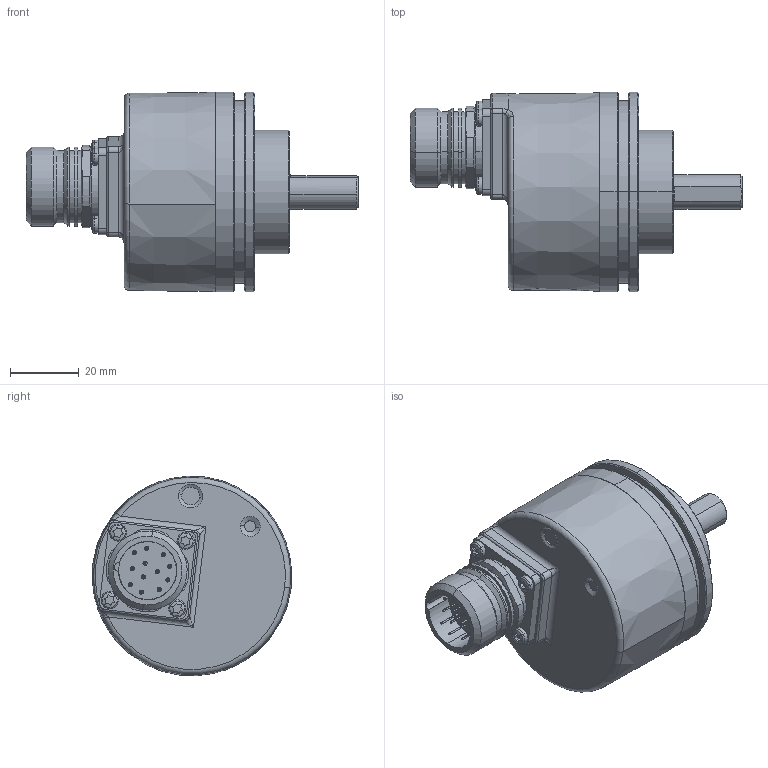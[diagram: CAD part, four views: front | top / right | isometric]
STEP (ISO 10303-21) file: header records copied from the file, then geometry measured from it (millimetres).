
FILE_DESCRIPTION (( 'STEP AP214' ), '1' );
FILE_NAME ('5814SIL.12X3.XXXX.STEP', '2010-07-22T06:29:30', ( 'admin' ), ( 'Fritz Kübler GmbH' ), 'SwSTEP 2.0', 'SolidWorks 2009', '' );
FILE_SCHEMA (( 'AUTOMOTIVE_DESIGN' ));
Length unit declared in the file: millimetre
Products named in the file (1): 5814SIL.12X3.XXXX
Bounding box: 96.5 x 58 x 58 mm (x, y, z)
Surface area: 21985.6 mm2 (no closed solid volume)
Topology: 0 solids, 30 shells, 328 faces, 859 edges, 540 vertices
Faces by surface type: cylinder 138, plane 85, cone 43, sphere 32, torus 24, bspline 6
Entity records: 14653 total; most frequent: CARTESIAN_POINT 2789, DIRECTION 1956, ORIENTED_EDGE 1508, EDGE_CURVE 833, AXIS2_PLACEMENT_3D 826, VERTEX_POINT 540, CIRCLE 503, EDGE_LOOP 374
